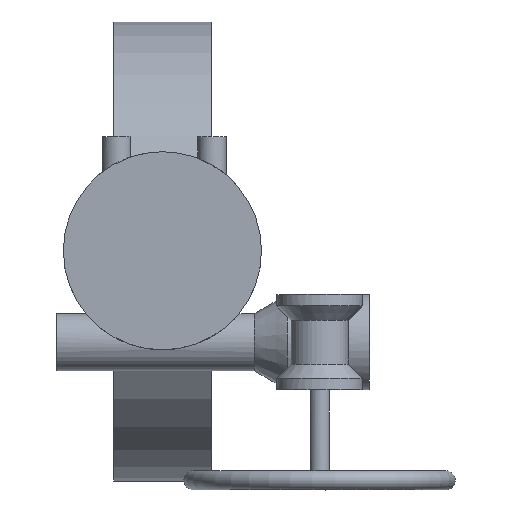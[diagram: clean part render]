
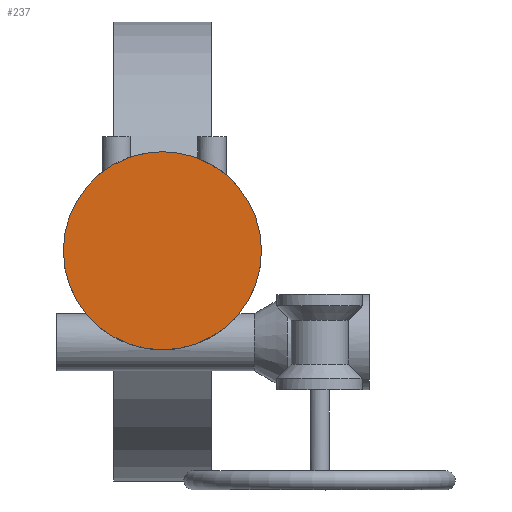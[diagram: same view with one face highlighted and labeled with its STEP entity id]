
A CAD part, top view. The second image highlights one B-rep face of the part: STEP entity #237.
In plain terms, the highlighted planar face has unit normal (0, 0, 1).
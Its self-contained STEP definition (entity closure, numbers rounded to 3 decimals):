
#237=ADVANCED_FACE('',(#7418),#7420,.T.);
#7418=FACE_BOUND('',#7419,.T.);
#7419=EDGE_LOOP('',(#13017));
#7420=PLANE('',#7421);
#7421=AXIS2_PLACEMENT_3D('',#7422,#7423,#7424);
#7422=CARTESIAN_POINT('',(0.,0.,483.));
#7423=DIRECTION('',(0.,0.,1.));
#7424=DIRECTION('',(0.,1.,0.));
#13017=ORIENTED_EDGE('',*,*,#17480,.T.);
#17480=EDGE_CURVE('',#19751,#19751,#19752,.T.);
#19751=VERTEX_POINT('',#23581);
#19752=CIRCLE('',#23582,104.);
#23581=CARTESIAN_POINT('',(0.,104.,483.));
#23582=AXIS2_PLACEMENT_3D('',#23583,#23584,#23585);
#23583=CARTESIAN_POINT('',(0.,0.,483.));
#23584=DIRECTION('',(0.,0.,1.));
#23585=DIRECTION('',(0.,1.,0.));
